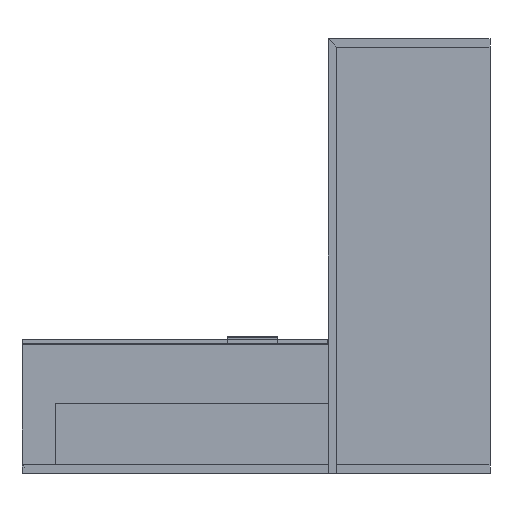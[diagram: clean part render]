
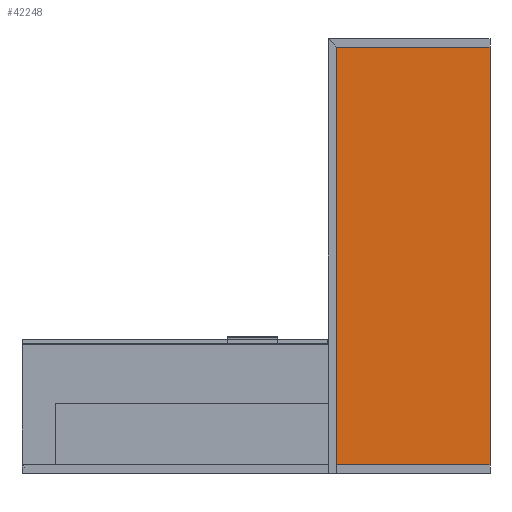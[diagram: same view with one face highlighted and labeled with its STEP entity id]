
A CAD part, left-side view. The second image highlights one B-rep face of the part: STEP entity #42248.
In plain terms, the highlighted planar face has unit normal (-1, 0, 0) as drawn and (0, 0, 1) by its records, which use the part's own axes.
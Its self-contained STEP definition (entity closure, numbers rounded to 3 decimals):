
#7658=FACE_OUTER_BOUND('',#10049,.T.);
#10049=EDGE_LOOP('',(#32871,#32872,#32873,#32874));
#13031=LINE('',#68699,#16817);
#13034=LINE('',#68705,#16820);
#13035=LINE('',#68707,#16821);
#13036=LINE('',#68708,#16822);
#16817=VECTOR('',#54274,0.394);
#16820=VECTOR('',#54279,0.394);
#16821=VECTOR('',#54280,0.394);
#16822=VECTOR('',#54281,0.394);
#20443=VERTEX_POINT('',#68695);
#20445=VERTEX_POINT('',#68698);
#20447=VERTEX_POINT('',#68704);
#20448=VERTEX_POINT('',#68706);
#24910=EDGE_CURVE('',#20445,#20443,#13031,.T.);
#24913=EDGE_CURVE('',#20447,#20443,#13034,.T.);
#24914=EDGE_CURVE('',#20448,#20447,#13035,.T.);
#24915=EDGE_CURVE('',#20448,#20445,#13036,.T.);
#32871=ORIENTED_EDGE('',*,*,#24913,.F.);
#32872=ORIENTED_EDGE('',*,*,#24914,.F.);
#32873=ORIENTED_EDGE('',*,*,#24915,.T.);
#32874=ORIENTED_EDGE('',*,*,#24910,.T.);
#40488=PLANE('',#46552);
#42248=ADVANCED_FACE('',(#7658),#40488,.T.);
#46552=AXIS2_PLACEMENT_3D('',#68703,#54277,#54278);
#54274=DIRECTION('',(1.,0.,0.));
#54277=DIRECTION('center_axis',(0.,0.,1.));
#54278=DIRECTION('ref_axis',(0.,-1.,0.));
#54279=DIRECTION('',(0.,-1.,0.));
#54280=DIRECTION('',(1.,0.,0.));
#54281=DIRECTION('',(0.,-1.,0.));
#68695=CARTESIAN_POINT('',(76.5,0.,30.));
#68698=CARTESIAN_POINT('',(1.5,0.,30.));
#68699=CARTESIAN_POINT('',(1.5,0.,30.));
#68703=CARTESIAN_POINT('Origin',(1.5,27.5,30.));
#68704=CARTESIAN_POINT('',(76.5,27.5,30.));
#68705=CARTESIAN_POINT('',(76.5,20.625,30.));
#68706=CARTESIAN_POINT('',(1.5,27.5,30.));
#68707=CARTESIAN_POINT('',(1.5,27.5,30.));
#68708=CARTESIAN_POINT('',(1.5,27.5,30.));
